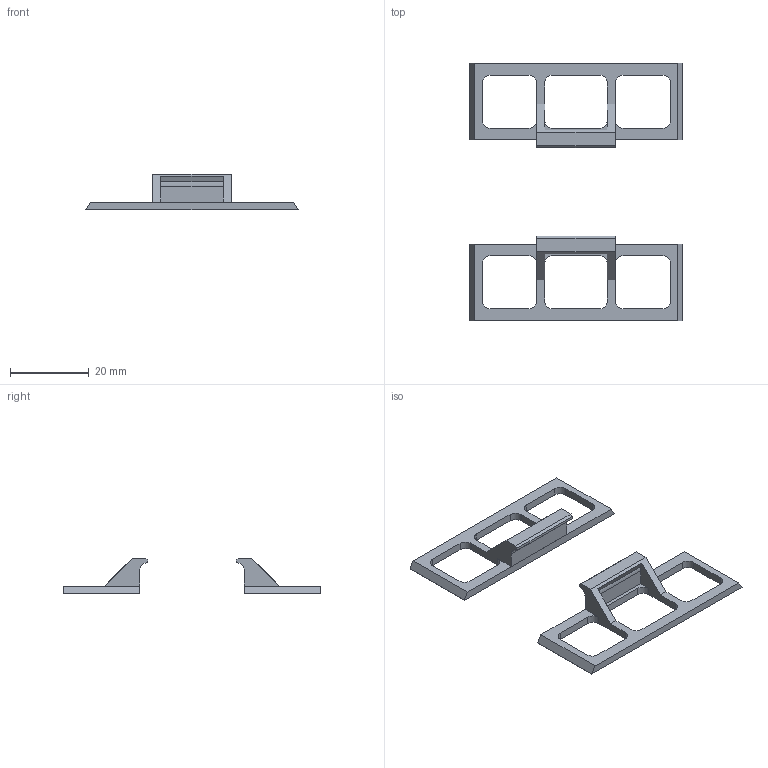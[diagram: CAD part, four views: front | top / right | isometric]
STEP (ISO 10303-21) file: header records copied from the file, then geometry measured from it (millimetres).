
FILE_DESCRIPTION(/* description */ ('Alibre Inc.'),/* implementation_level */ '2;1');
FILE_NAME(/* name */ 'export0',/* time_stamp */ '2018-08-03T14:54:45-04:00',/* author */ (''),/* organization */ (''),/* preprocessor_version */ 'ST-DEVELOPER v17',/* originating_system */ 'Alibre',/* authorisation */ '');
FILE_SCHEMA (('AUTOMOTIVE_DESIGN'));
Length unit declared in the file: millimetre
Bounding box: 54 x 65.5 x 9.16 mm (x, y, z)
Volume: 2695.6 mm3; surface area: 3959.6 mm2
Topology: 2 solids, 2 shells, 88 faces, 264 edges, 176 vertices
Faces by surface type: plane 60, cylinder 28
Entity records: 2878 total; most frequent: ORIENTED_EDGE 528, CARTESIAN_POINT 512, DIRECTION 420, EDGE_CURVE 264, VECTOR 200, LINE 200, VERTEX_POINT 176, AXIS2_PLACEMENT_3D 136
